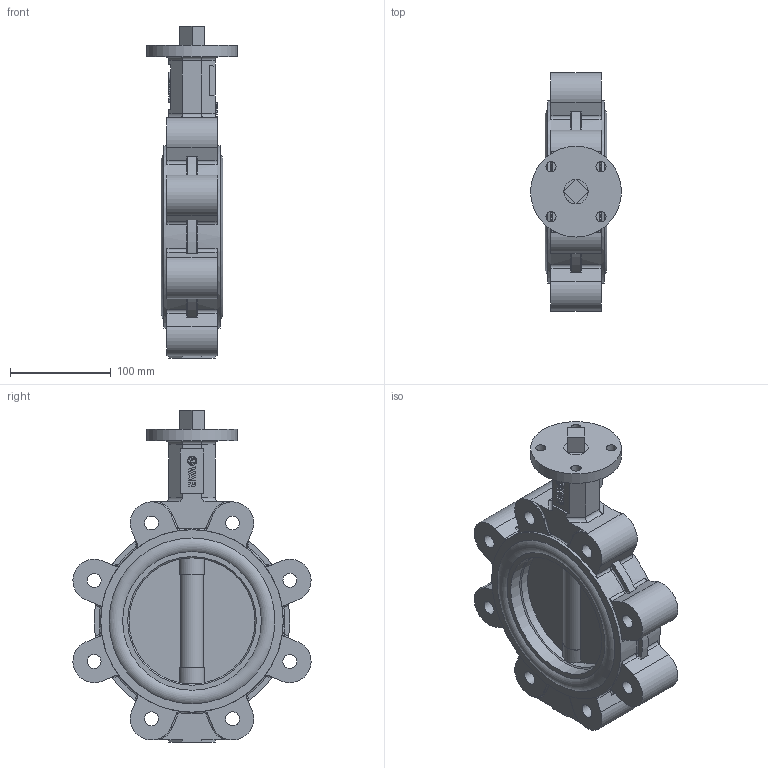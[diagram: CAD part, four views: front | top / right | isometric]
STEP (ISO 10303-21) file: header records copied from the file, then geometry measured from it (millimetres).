
FILE_DESCRIPTION(('STEP AP242'), '1');
FILE_NAME('Ïîâîðîòíûé çàòâîð ïîä ýëåêòðîïðèâîä', '', ('UNSPECIFIED'), ('UNSPECIFIED'), 'C3D Converter', 'C3D Toolkit', '');
FILE_SCHEMA(('AP242_MANAGED_MODEL_BASED_3D_ENGINEERING_MIM_LF { 1 0 10303 442 1 1 4 }'));
Length unit declared in the file: millimetre
Products named in the file (6): П
Assembly tree (6 placements, depth 2):
  (unnamed)
    (unnamed)
    П  x2
    (unnamed)
    (unnamed)
    (unnamed)
Bounding box: 90 x 235.97 x 329 mm (x, y, z)
Volume: 1693844.1 mm3; surface area: 323972.6 mm2
Topology: 6 solids, 6 shells, 576 faces, 1502 edges, 968 vertices
Faces by surface type: plane 243, cylinder 140, extrusion 131, torus 58, cone 4
Full cylindrical faces by diameter (mm): 9.137 x1, 10 x4, 13.835 x8, 17 x5, 18.7 x1, 24.042 x5, 26.41 x4, 90 x1, 125 x1, 127.5 x2, 137.5 x2, 150.917 x4, 164.333 x4, 180.867 x2
Entity records: 22396 total; most frequent: CARTESIAN_POINT 6504, ORIENTED_EDGE 2888, DIRECTION 2498, EDGE_CURVE 1444, VERTEX_POINT 963, VECTOR 892, AXIS2_PLACEMENT_3D 803, LINE 761
